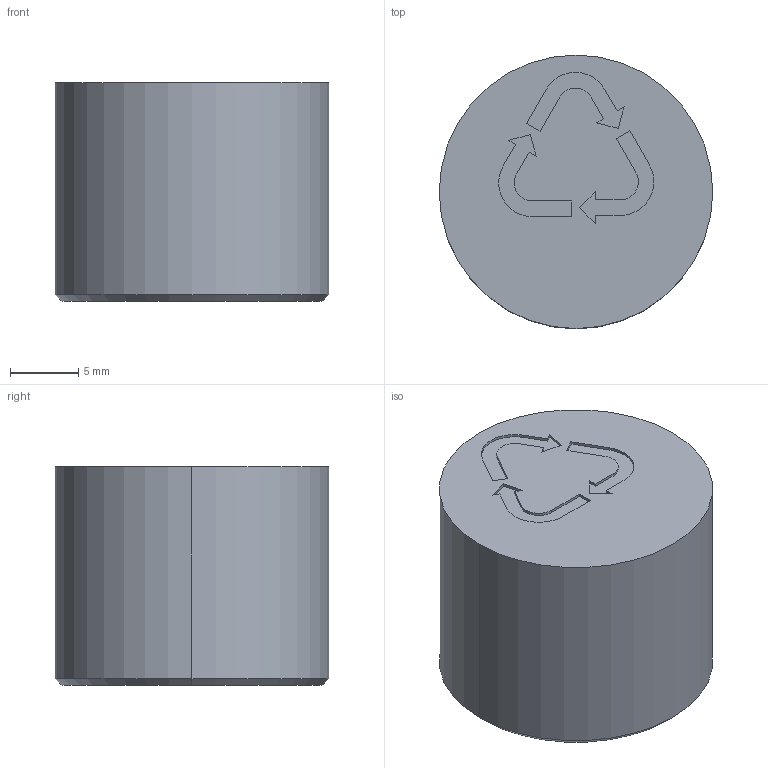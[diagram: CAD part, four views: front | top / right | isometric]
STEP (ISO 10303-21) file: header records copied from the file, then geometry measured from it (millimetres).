
FILE_DESCRIPTION (( 'STEP AP214' ), '1' );
FILE_NAME ('BruyRubio_IR_2016.STEP', '2019-12-19T17:35:25', ( '' ), ( '' ), 'SwSTEP 2.0', 'SolidWorks 2017', '' );
FILE_SCHEMA (( 'AUTOMOTIVE_DESIGN' ));
Length unit declared in the file: millimetre
Products named in the file (1): BruyRubio_IR_2016
Bounding box: 20 x 20 x 16 mm (x, y, z)
Volume: 5012.1 mm3; surface area: 1628.7 mm2
Topology: 1 solids, 1 shells, 44 faces, 115 edges, 76 vertices
Faces by surface type: plane 32, cylinder 10, cone 2
Entity records: 1863 total; most frequent: CARTESIAN_POINT 236, ORIENTED_EDGE 230, DIRECTION 227, EDGE_CURVE 115, LINE 93, VECTOR 93, VERTEX_POINT 76, AXIS2_PLACEMENT_3D 67
